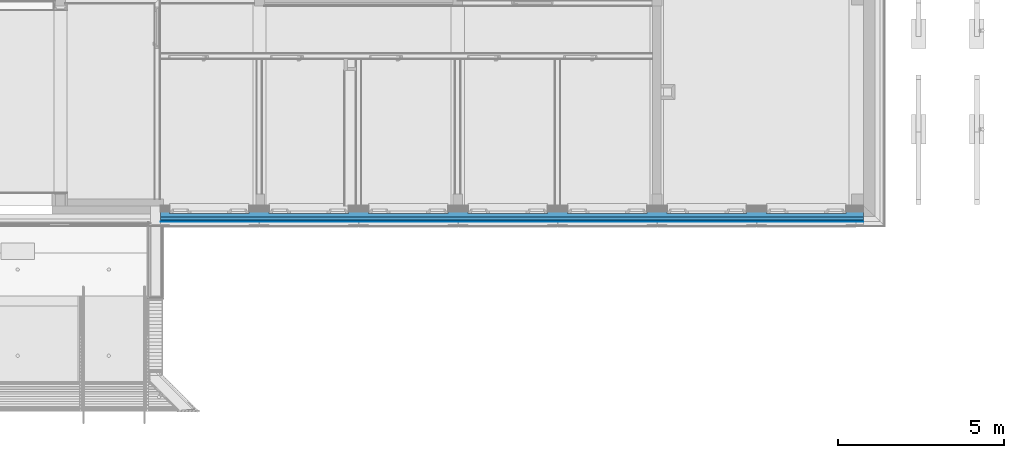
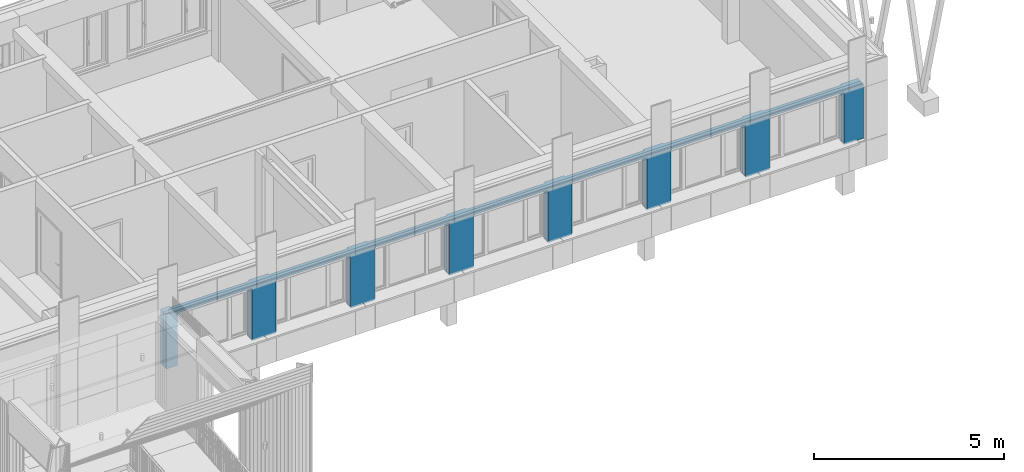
# One storey, part 41 of 418: 4 building element parts, 7 openings, 1 element without a shape of its own.
"""IFC2X3 building model written with IfcOpenShell, lengths in millimetres."""

from ifc_helpers import new_model, entity, si_unit, converted_unit, derived_unit, money_unit, direction, frame, origin_with_axes, origin_2d_with_axis, place, context, subcontext, project, spatial, polyline, rectangle, outline, extrude, material, type_object, element, aggregate, save


model = new_model("IFC2X3")

# Units and contexts
model_context = context("Model", 3, precision=0.01, world=origin_with_axes(), true_north=direction((0.0, 1.0)))
body_context = subcontext(model_context, "Body", "Model", "MODEL_VIEW")
ifc_project = project(units=[si_unit("LENGTHUNIT", "METRE", prefix="MILLI"), si_unit("AREAUNIT", "SQUARE_METRE"), si_unit("VOLUMEUNIT", "CUBIC_METRE"), converted_unit("PLANEANGLEUNIT", "DEGREE", entity("IfcPlaneAngleMeasure", 0.0174532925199), si_unit("PLANEANGLEUNIT", "RADIAN"), dimensions=[0, 0, 0, 0, 0, 0, 0]), si_unit("SOLIDANGLEUNIT", "STERADIAN"), money_unit("EUR"), converted_unit("TIMEUNIT", "Year", entity("IfcTimeMeasure", 31556926.0), si_unit("TIMEUNIT", "SECOND"), dimensions=[0, 0, 1, 0, 0, 0, 0]), si_unit("MASSUNIT", "GRAM", prefix="KILO"), si_unit("THERMODYNAMICTEMPERATUREUNIT", "DEGREE_CELSIUS"), si_unit("LUMINOUSINTENSITYUNIT", "LUMEN"), si_unit("ENERGYUNIT", "JOULE", prefix="MEGA"), derived_unit("THERMALCONDUCTANCEUNIT", [(si_unit("POWERUNIT", "WATT"), 1), (si_unit("LENGTHUNIT", "METRE"), -1), (si_unit("THERMODYNAMICTEMPERATUREUNIT", "KELVIN"), -1)]), derived_unit("SPECIFICHEATCAPACITYUNIT", [(si_unit("ENERGYUNIT", "JOULE"), 1), (si_unit("MASSUNIT", "GRAM", prefix="KILO"), -1), (si_unit("THERMODYNAMICTEMPERATUREUNIT", "KELVIN"), -1)]), derived_unit("MASSDENSITYUNIT", [(si_unit("MASSUNIT", "GRAM", prefix="KILO"), 1), (si_unit("VOLUMEUNIT", "CUBIC_METRE"), -1)])], contexts=[model_context])

# Site, building, storey
site_placement = place(None, origin_with_axes())
site = spatial("IfcSite", under=ifc_project, at=site_placement, Name="Paldiski mnt 245/1, Tallinn, Harjumaa", CompositionType="COMPLEX")
building_placement = place(site_placement, origin_with_axes())
building = spatial("IfcBuilding", under=site, at=building_placement, Name="RKAS Hoone üldnimetus (kasutust iseloomustav) -> IFC Project Manager -> SOLIBRI", CompositionType="ELEMENT")
storey_placement = place(building_placement, origin_with_axes())
storey = spatial("IfcBuildingStorey", under=building, at=storey_placement, Name="Esimene korrus", CompositionType="ELEMENT", Elevation=0.0)

# Wall, openings, building element parts
wall_type = type_object("IfcWallType", Name="VS-04_uued_kihid 300", PredefinedType="NOTDEFINED")
wall_placement = place(storey_placement, frame((-17230.0, -12690.0843011, 810.0), z_axis=(0.0, 0.0, 1.0), x_axis=(-1.0, 0.0, 0.0)))
wall = element("IfcWall", 1, at=wall_placement, inside=storey, type_object=wall_type, Name="VS-04")
opening_1_placement = place(wall_placement, frame((19720.0, -4.60076421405e-10, 0.0), z_axis=(0.0, 0.0, 1.0), x_axis=(1.0, 0.0, 0.0)))
element("IfcOpeningElement", 2, at=opening_1_placement, cuts=wall, Name="A-01", context=body_context, shape_type="SweptSolid", body=[
    extrude(rectangle(XDim=2270.0, YDim=1685.0, at=origin_2d_with_axis()), frame((0.0, 50.0000000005, 842.5), z_axis=(0.0, 1.0, 0.0), x_axis=(1.0, 0.0, 0.0)), (0.0, 0.0, 1.0), 550.0),
    extrude(rectangle(XDim=2400.0, YDim=1750.0, at=origin_2d_with_axis()), frame((0.0, 50.0000000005, 875.0), z_axis=(0.0, 1.0, 0.0), x_axis=(1.0, 0.0, 0.0)), (0.0, 0.0, -1.0), 80.0),
    extrude(rectangle(XDim=2400.0, YDim=1750.0, at=origin_2d_with_axis()), frame((0.0, -29.9999999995, 875.0), z_axis=(0.0, -1.0, 0.0), x_axis=(1.0, 0.0, 0.0)), (0.0, 0.0, 1.0), 330.0),
])
opening_2_placement = place(wall_placement, frame((16720.0, -3.90798504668e-10, 0.0), z_axis=(0.0, 0.0, 1.0), x_axis=(1.0, 0.0, 0.0)))
element("IfcOpeningElement", 3, at=opening_2_placement, cuts=wall, Name="A-01", context=body_context, shape_type="SweptSolid", body=[
    extrude(rectangle(XDim=2270.0, YDim=1685.0, at=origin_2d_with_axis()), frame((0.0, 50.0000000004, 842.5), z_axis=(0.0, 1.0, 0.0), x_axis=(1.0, 0.0, 0.0)), (0.0, 0.0, 1.0), 550.0),
    extrude(rectangle(XDim=2400.0, YDim=1750.0, at=origin_2d_with_axis()), frame((0.0, 50.0000000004, 875.0), z_axis=(0.0, 1.0, 0.0), x_axis=(1.0, 0.0, 0.0)), (0.0, 0.0, -1.0), 80.0),
    extrude(rectangle(XDim=2400.0, YDim=1750.0, at=origin_2d_with_axis()), frame((0.0, -29.9999999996, 875.0), z_axis=(0.0, -1.0, 0.0), x_axis=(1.0, 0.0, 0.0)), (0.0, 0.0, 1.0), 330.0),
])
opening_3_placement = place(wall_placement, frame((13720.0, -3.19744231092e-10, 0.0), z_axis=(0.0, 0.0, 1.0), x_axis=(1.0, 0.0, 0.0)))
element("IfcOpeningElement", 4, at=opening_3_placement, cuts=wall, Name="A-01", context=body_context, shape_type="SweptSolid", body=[
    extrude(rectangle(XDim=2270.0, YDim=1685.0, at=origin_2d_with_axis()), frame((0.0, 50.0000000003, 842.5), z_axis=(0.0, 1.0, 0.0), x_axis=(1.0, 0.0, 0.0)), (0.0, 0.0, 1.0), 550.0),
    extrude(rectangle(XDim=2400.0, YDim=1750.0, at=origin_2d_with_axis()), frame((0.0, 50.0000000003, 875.0), z_axis=(0.0, 1.0, 0.0), x_axis=(1.0, 0.0, 0.0)), (0.0, 0.0, -1.0), 80.0),
    extrude(rectangle(XDim=2400.0, YDim=1750.0, at=origin_2d_with_axis()), frame((0.0, -29.9999999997, 875.0), z_axis=(0.0, -1.0, 0.0), x_axis=(1.0, 0.0, 0.0)), (0.0, 0.0, 1.0), 330.0),
])
opening_4_placement = place(wall_placement, frame((10720.0, -2.50466314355e-10, 0.0), z_axis=(0.0, 0.0, 1.0), x_axis=(1.0, 0.0, 0.0)))
element("IfcOpeningElement", 5, at=opening_4_placement, cuts=wall, Name="A-01", context=body_context, shape_type="SweptSolid", body=[
    extrude(rectangle(XDim=2270.0, YDim=1685.0, at=origin_2d_with_axis()), frame((0.0, 50.0000000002, 842.5), z_axis=(0.0, 1.0, 0.0), x_axis=(1.0, 0.0, 0.0)), (0.0, 0.0, 1.0), 550.0),
    extrude(rectangle(XDim=2400.0, YDim=1750.0, at=origin_2d_with_axis()), frame((0.0, 50.0000000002, 875.0), z_axis=(0.0, 1.0, 0.0), x_axis=(1.0, 0.0, 0.0)), (0.0, 0.0, -1.0), 80.0),
    extrude(rectangle(XDim=2400.0, YDim=1750.0, at=origin_2d_with_axis()), frame((0.0, -29.9999999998, 875.0), z_axis=(0.0, -1.0, 0.0), x_axis=(1.0, 0.0, 0.0)), (0.0, 0.0, 1.0), 330.0),
])
opening_5_placement = place(wall_placement, frame((7720.0, -1.81188397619e-10, 0.0), z_axis=(0.0, 0.0, 1.0), x_axis=(1.0, 0.0, 0.0)))
element("IfcOpeningElement", 6, at=opening_5_placement, cuts=wall, Name="A-01", context=body_context, shape_type="SweptSolid", body=[
    extrude(rectangle(XDim=2270.0, YDim=1685.0, at=origin_2d_with_axis()), frame((0.0, 50.0000000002, 842.5), z_axis=(0.0, 1.0, 0.0), x_axis=(1.0, 0.0, 0.0)), (0.0, 0.0, 1.0), 550.0),
    extrude(rectangle(XDim=2400.0, YDim=1750.0, at=origin_2d_with_axis()), frame((0.0, 50.0000000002, 875.0), z_axis=(0.0, 1.0, 0.0), x_axis=(1.0, 0.0, 0.0)), (0.0, 0.0, -1.0), 80.0),
    extrude(rectangle(XDim=2400.0, YDim=1750.0, at=origin_2d_with_axis()), frame((0.0, -29.9999999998, 875.0), z_axis=(0.0, -1.0, 0.0), x_axis=(1.0, 0.0, 0.0)), (0.0, 0.0, 1.0), 330.0),
])
opening_6_placement = place(wall_placement, frame((4720.0, -1.11910480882e-10, 0.0), z_axis=(0.0, 0.0, 1.0), x_axis=(1.0, 0.0, 0.0)))
element("IfcOpeningElement", 7, at=opening_6_placement, cuts=wall, Name="A-01", context=body_context, shape_type="SweptSolid", body=[
    extrude(rectangle(XDim=2270.0, YDim=1685.0, at=origin_2d_with_axis()), frame((0.0, 50.0000000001, 842.5), z_axis=(0.0, 1.0, 0.0), x_axis=(1.0, 0.0, 0.0)), (0.0, 0.0, 1.0), 550.0),
    extrude(rectangle(XDim=2400.0, YDim=1750.0, at=origin_2d_with_axis()), frame((0.0, 50.0000000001, 875.0), z_axis=(0.0, 1.0, 0.0), x_axis=(1.0, 0.0, 0.0)), (0.0, 0.0, -1.0), 80.0),
    extrude(rectangle(XDim=2400.0, YDim=1750.0, at=origin_2d_with_axis()), frame((0.0, -29.9999999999, 875.0), z_axis=(0.0, -1.0, 0.0), x_axis=(1.0, 0.0, 0.0)), (0.0, 0.0, 1.0), 330.0),
])
opening_7_placement = place(wall_placement, frame((1720.0, 0.0, 0.0), z_axis=(0.0, 0.0, 1.0), x_axis=(1.0, 0.0, 0.0)))
element("IfcOpeningElement", 8, at=opening_7_placement, cuts=wall, Name="A-01", context=body_context, shape_type="SweptSolid", body=[
    extrude(rectangle(XDim=2270.0, YDim=1685.0, at=origin_2d_with_axis()), frame((0.0, 50.0, 842.5), z_axis=(0.0, 1.0, 0.0), x_axis=(1.0, 0.0, 0.0)), (0.0, 0.0, 1.0), 550.0),
    extrude(rectangle(XDim=2400.0, YDim=1750.0, at=origin_2d_with_axis()), frame((0.0, 50.0, 875.0), z_axis=(0.0, 1.0, 0.0), x_axis=(1.0, 0.0, 0.0)), (0.0, 0.0, -1.0), 80.0),
    extrude(rectangle(XDim=2400.0, YDim=1750.0, at=origin_2d_with_axis()), frame((0.0, -30.0, 875.0), z_axis=(0.0, -1.0, 0.0), x_axis=(1.0, 0.0, 0.0)), (0.0, 0.0, 1.0), 330.0),
])
ifc_material_1 = material(Name="Cembrit_C060")
building_element_part_1_placement = place(wall_placement, origin_with_axes())
building_element_part_1 = element("IfcBuildingElementPart", 9, at=building_element_part_1_placement, material=ifc_material_1, Name="Cembrit_C060", context=body_context, shape_type="SweptSolid", body=[
    extrude(outline(polyline([(0.0, 292.0), (21190.0, 292.0), (21190.0, 300.0), (0.0, 300.0), (0.0, 292.0)])), origin_with_axes(), (0.0, 0.0, 1.0), 1750.0),
])
ifc_material_2 = material(Name="VKR-06_Õhkvahe")
building_element_part_2_placement = place(wall_placement, origin_with_axes())
building_element_part_2 = element("IfcBuildingElementPart", 10, at=building_element_part_2_placement, material=ifc_material_2, Name="VKR-06_Õhkvahe", context=body_context, shape_type="SweptSolid", body=[
    extrude(outline(polyline([(0.0, 250.0), (21190.0, 250.0), (21190.0, 292.0), (0.0, 292.0), (0.0, 250.0)])), origin_with_axes(), (0.0, 0.0, 1.0), 1750.0),
])
ifc_material_3 = material(Name="Kingspan Kooltherm")
building_element_part_3_placement = place(wall_placement, origin_with_axes())
building_element_part_3 = element("IfcBuildingElementPart", 11, at=building_element_part_3_placement, material=ifc_material_3, Name="Kingspan Kooltherm", context=body_context, shape_type="SweptSolid", body=[
    extrude(outline(polyline([(0.0, 150.0), (21190.0, 150.0), (21190.0, 250.0), (0.0, 250.0), (0.0, 150.0)])), origin_with_axes(), (0.0, 0.0, 1.0), 1750.0),
])
building_element_part_4_placement = place(wall_placement, origin_with_axes())
building_element_part_4 = element("IfcBuildingElementPart", 12, at=building_element_part_4_placement, material=ifc_material_3, Name="Kingspan Kooltherm", context=body_context, shape_type="SweptSolid", body=[
    extrude(outline(polyline([(0.0, 0.0), (21190.0, 0.0), (21190.0, 150.0), (0.0, 150.0), (0.0, 0.0)])), origin_with_axes(), (0.0, 0.0, 1.0), 1750.0),
])
aggregate(wall, [building_element_part_1, building_element_part_2, building_element_part_3, building_element_part_4])

save(model, "model.ifc")
